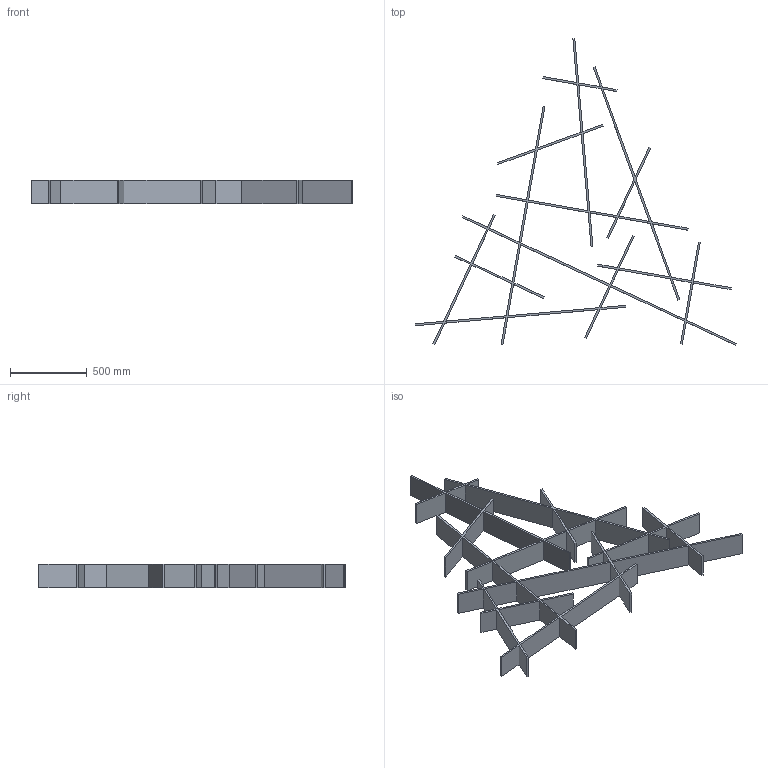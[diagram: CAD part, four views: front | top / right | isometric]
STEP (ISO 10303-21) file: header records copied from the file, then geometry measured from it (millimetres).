
FILE_DESCRIPTION(/* description */ (''),/* implementation_level */ '2;1');
FILE_NAME(/* name */ 'Thatch Triangle Original Simplified',/* time_stamp */ '2026-04-13T11:14:11-05:00',/* author */ (''),/* organization */ (''),/* preprocessor_version */ 'ST-DEVELOPER v19.2',/* originating_system */ 'Rhino 8.29',/* authorisation */ '');
FILE_SCHEMA (('CONFIG_CONTROL_DESIGN'));
Length unit declared in the file: inch
Products named in the file (1): Document
Bounding box: 2092.46 x 1995.87 x 152.4 mm (x, y, z)
Volume: 28248640.7 mm3; surface area: 4785799.8 mm2
Topology: 1 solids, 1 shells, 142 faces, 420 edges, 280 vertices
Faces by surface type: plane 142
Entity records: 4034 total; most frequent: CARTESIAN_POINT 1222, ORIENTED_EDGE 840, EDGE_CURVE 420, B_SPLINE_CURVE_WITH_KNOTS 420, VERTEX_POINT 280, EDGE_LOOP 158, ADVANCED_FACE 142, FACE_OUTER_BOUND 142
